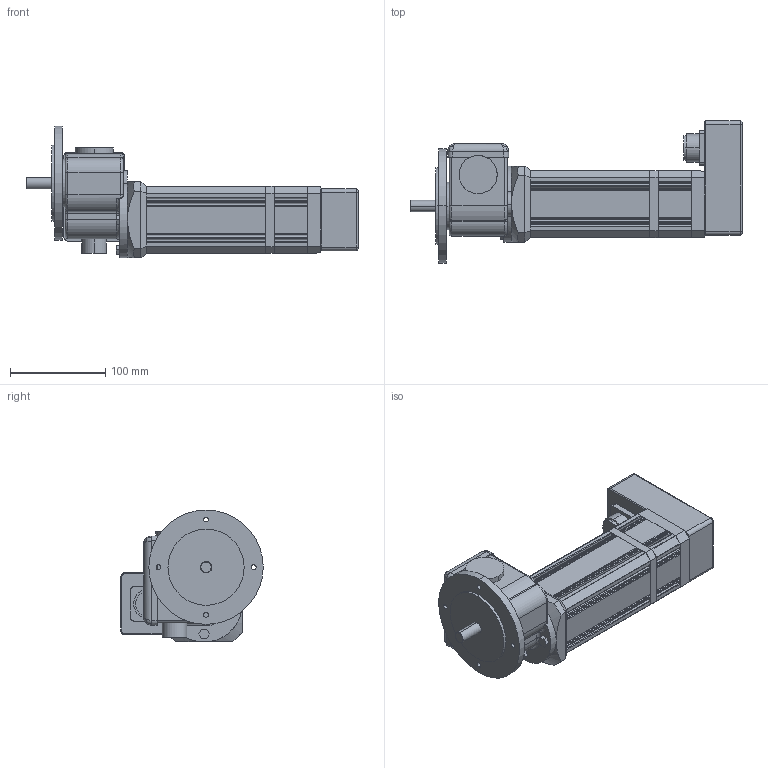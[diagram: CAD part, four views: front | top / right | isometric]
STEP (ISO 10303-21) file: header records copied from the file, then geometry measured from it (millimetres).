
FILE_DESCRIPTION(('OneSpaceDesigner STEP Export'),'2;1');
FILE_NAME('UECG313THL_GF23_Q.stp','2008-06-26T15:03:21',(''),(''),'OneSpace Designer STEP processor (Jan. 2003) for AP214(CD)(Solid Model)','OneSpace Designer 12.01D 09-Jul-2004 (C) CoCreate Software GmbH','');
FILE_SCHEMA(('AUTOMOTIVE_DESIGN_CC2 {1 2 10303 214 -1 1 5 1}'));
Length unit declared in the file: millimetre
Products named in the file (2): UECG313THL_GF23_Q
Assembly tree (1 placements, depth 2):
  UECG313THL_GF23_Q
    UECG313THL_GF23_Q
Bounding box: 348.5 x 149.5 x 138.5 mm (x, y, z)
Volume: 1935361.8 mm3; surface area: 167163.1 mm2
Topology: 1 solids, 1 shells, 465 faces, 1230 edges, 780 vertices
Faces by surface type: plane 229, cylinder 197, torus 20, bspline 12, cone 6, sphere 1
Entity records: 15724 total; most frequent: CARTESIAN_POINT 4608, ORIENTED_EDGE 2458, DIRECTION 2157, EDGE_CURVE 1229, VERTEX_POINT 780, AXIS2_PLACEMENT_3D 722, VECTOR 713, LINE 713
